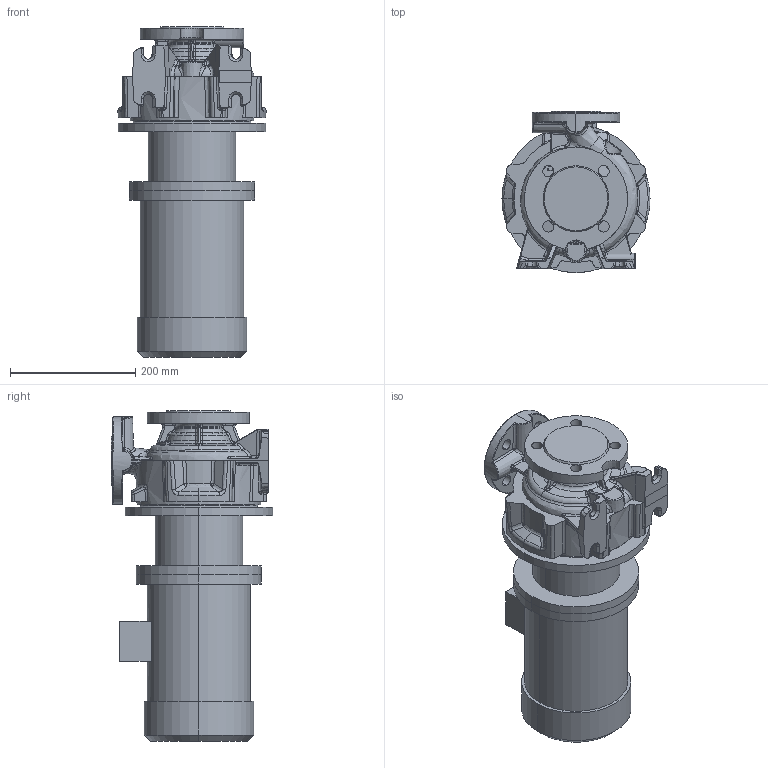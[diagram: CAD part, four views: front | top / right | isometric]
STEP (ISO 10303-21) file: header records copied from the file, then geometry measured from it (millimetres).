
FILE_DESCRIPTION (( 'STEP AP214' ), '1' );
FILE_NAME ('KRM 50-32-125.1-2-1,5.STEP', '2026-04-21T08:03:05', ( '' ), ( '' ), 'SwSTEP 2.0', 'SolidWorks 2016', '' );
FILE_SCHEMA (( 'AUTOMOTIVE_DESIGN' ));
Length unit declared in the file: millimetre
Products named in the file (1): KRM 50-32-125.1-2-1,5
Bounding box: 236.75 x 258 x 528.8 mm (x, y, z)
Volume: 13152034.1 mm3; surface area: 756013.2 mm2
Topology: 5 solids, 5 shells, 830 faces, 2014 edges, 1207 vertices
Faces by surface type: bspline 356, cylinder 189, plane 142, torus 64, cone 58, sphere 21
Entity records: 54980 total; most frequent: CARTESIAN_POINT 29447, ORIENTED_EDGE 4008, DIRECTION 2696, EDGE_CURVE 2004, VERTEX_POINT 1206, AXIS2_PLACEMENT_3D 1143, EDGE_LOOP 868, UNCERTAINTY_MEASURE_WITH_UNIT 837
